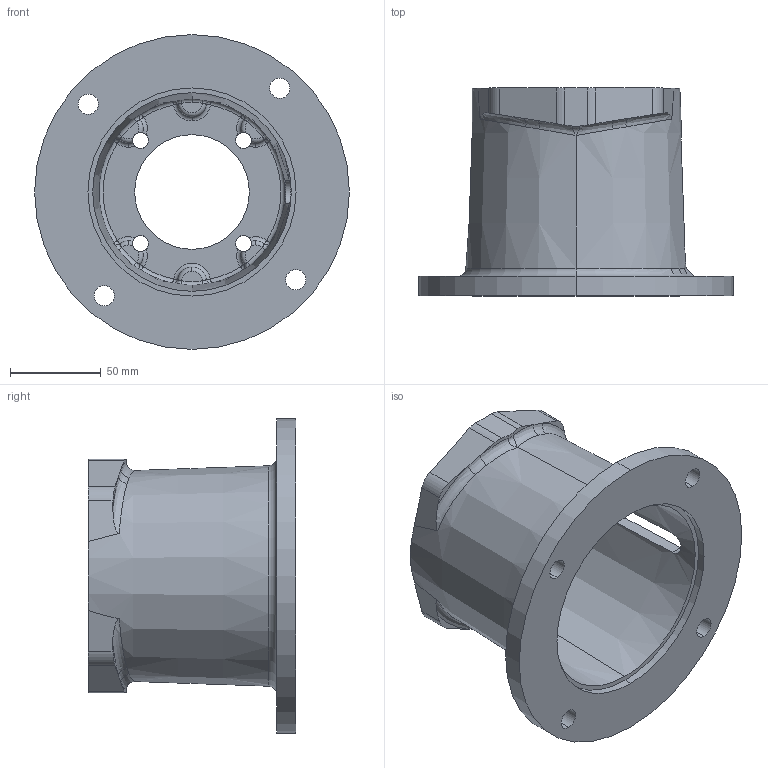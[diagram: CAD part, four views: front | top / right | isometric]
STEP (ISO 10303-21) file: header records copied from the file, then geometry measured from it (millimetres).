
FILE_DESCRIPTION (( 'STEP AP203' ), '1' );
FILE_NAME ('M0564563MS.STEP', '2015-01-19T15:29:30', ( '' ), ( '' ), 'SwSTEP 2.0', 'SolidWorks 2014', '' );
FILE_SCHEMA (( 'CONFIG_CONTROL_DESIGN' ));
Length unit declared in the file: inch
Products named in the file (1): M0564563MS
Bounding box: 172.97 x 114.12 x 172.97 mm (x, y, z)
Volume: 453577.2 mm3; surface area: 121599.1 mm2
Topology: 1 solids, 1 shells, 195 faces, 509 edges, 300 vertices
Faces by surface type: torus 54, bspline 38, cylinder 34, plane 31, sphere 24, cone 14
Entity records: 8080 total; most frequent: CARTESIAN_POINT 3478, ORIENTED_EDGE 990, DIRECTION 958, EDGE_CURVE 495, AXIS2_PLACEMENT_3D 439, VERTEX_POINT 300, CIRCLE 281, EDGE_LOOP 213
